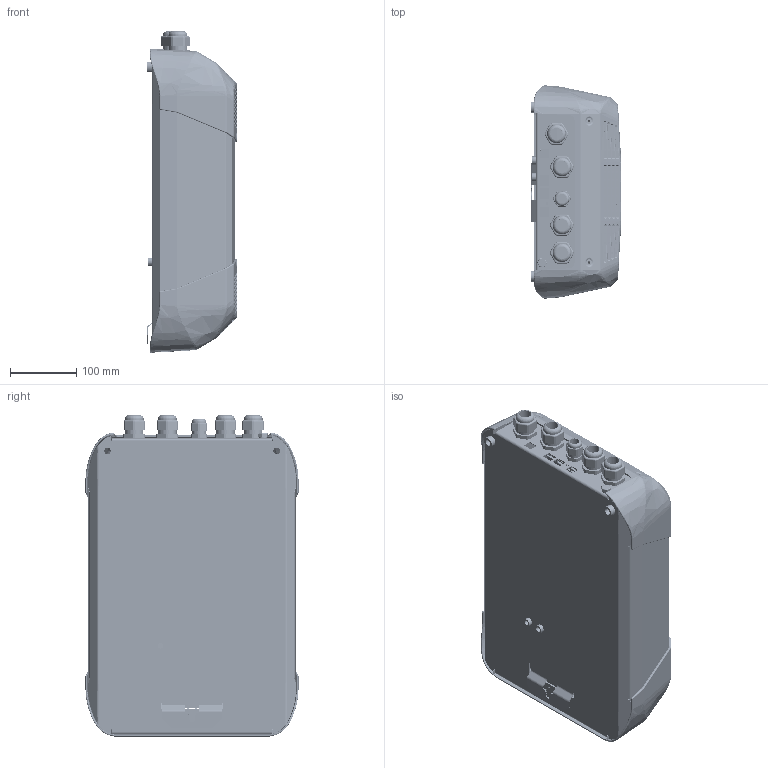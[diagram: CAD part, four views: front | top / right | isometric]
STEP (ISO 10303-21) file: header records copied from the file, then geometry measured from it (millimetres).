
FILE_DESCRIPTION(/* description */ ('Alibre Inc.'),/* implementation_level */ '2;1');
FILE_NAME(/* name */ 'export0',/* time_stamp */ '2015-04-23T13:12:42+02:00',/* author */ (''),/* organization */ (''),/* preprocessor_version */ 'ST-DEVELOPER v14',/* originating_system */ 'Alibre',/* authorisation */ '');
FILE_SCHEMA (('AUTOMOTIVE_DESIGN'));
Length unit declared in the file: millimetre
Products named in the file (18): 02_TOLE_FOND; 02_SUPPORT_TRANSFO; 02_COQUE_TOLE; 02_COQUE_INJECT; 02_COQUE_INJECT_FERMEE
Bounding box: 137.33 x 322.56 x 486.44 mm (x, y, z)
Volume: 1140308 mm3; surface area: 1208867.9 mm2
Topology: 36 solids, 36 shells, 11507 faces, 29222 edges, 17363 vertices
Faces by surface type: plane 4501, cylinder 3508, bspline 3121, torus 165, cone 148, sphere 64
Full cylindrical faces by diameter (mm): 3.5 x1, 4 x16, 4.3 x3, 4.5 x3, 4.79 x1, 5.9 x4, 6 x6, 6.5 x12, 8 x16, 8.4 x2, 10 x3, 10.5 x3, 12 x2, 12.65 x3, 12.67 x2, 14.4 x1, 16.5 x2, 18.5 x4, 20.2 x1, 20.6 x1, 21.5 x1, 22 x1, 28 x8, 28.4 x4, 28.5 x4, 57 x1
Entity records: 444357 total; most frequent: CARTESIAN_POINT 207402, ORIENTED_EDGE 57214, DIRECTION 34161, EDGE_CURVE 28607, VERTEX_POINT 17008, VECTOR 14908, LINE 14908, EDGE_LOOP 11895
